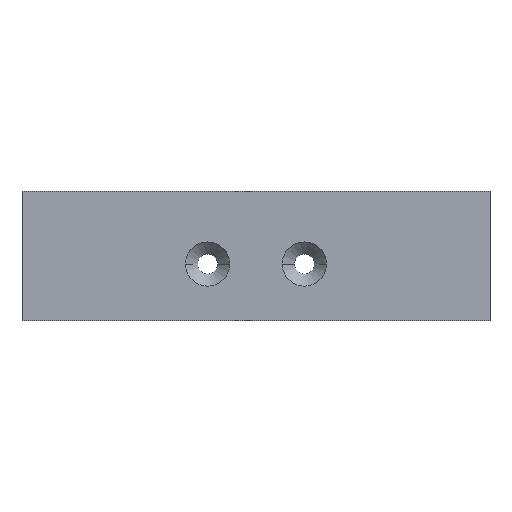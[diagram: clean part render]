
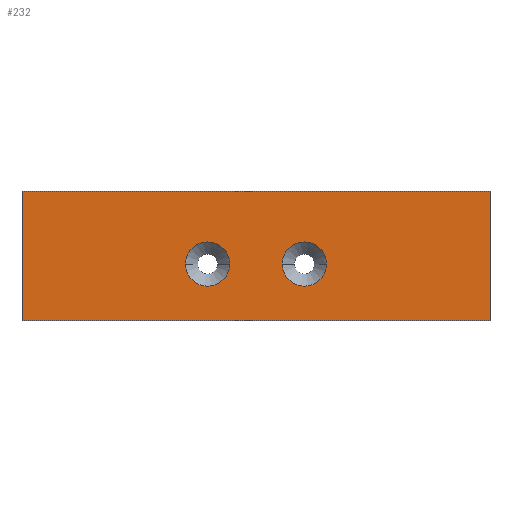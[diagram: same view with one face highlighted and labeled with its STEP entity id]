
A CAD part, top view. The second image highlights one B-rep face of the part: STEP entity #232.
In plain terms, the highlighted planar face has unit normal (0, 0, 1).
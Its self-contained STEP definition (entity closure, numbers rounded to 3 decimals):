
#6 = VERTEX_POINT ( 'NONE', #263 ) ;
#28 = VERTEX_POINT ( 'NONE', #211 ) ;
#36 = EDGE_CURVE ( 'NONE', #6, #38, #206, .T. ) ;
#38 = VERTEX_POINT ( 'NONE', #199 ) ;
#68 = VERTEX_POINT ( 'NONE', #674 ) ;
#69 = EDGE_CURVE ( 'NONE', #28, #68, #687, .T. ) ;
#156 = AXIS2_PLACEMENT_3D ( 'NONE', #203, #193, #192 ) ;
#168 = EDGE_CURVE ( 'NONE', #280, #286, #625, .T. ) ;
#192 = DIRECTION ( 'NONE',  ( 1., 0., 0. ) ) ;
#193 = DIRECTION ( 'NONE',  ( 0., 0., 1. ) ) ;
#199 = CARTESIAN_POINT ( 'NONE',  ( -8.145, 0., 15. ) ) ;
#203 = CARTESIAN_POINT ( 'NONE',  ( -15., 0., 15. ) ) ;
#206 = CIRCLE ( 'NONE', #156, 6.855 ) ;
#211 = CARTESIAN_POINT ( 'NONE',  ( 8.145, 0., 15. ) ) ;
#218 = ORIENTED_EDGE ( 'NONE', *, *, #168, .T. ) ;
#220 = ORIENTED_EDGE ( 'NONE', *, *, #333, .T. ) ;
#224 = EDGE_LOOP ( 'NONE', ( #235, #229 ) ) ;
#227 = EDGE_CURVE ( 'NONE', #280, #307, #563, .T. ) ;
#229 = ORIENTED_EDGE ( 'NONE', *, *, #36, .F. ) ;
#232 = ADVANCED_FACE ( 'NONE', ( #571, #600, #566 ), #559, .F. ) ;
#233 = ORIENTED_EDGE ( 'NONE', *, *, #227, .F. ) ;
#234 = EDGE_CURVE ( 'NONE', #68, #28, #564, .T. ) ;
#235 = ORIENTED_EDGE ( 'NONE', *, *, #237, .F. ) ;
#236 = EDGE_LOOP ( 'NONE', ( #220, #233, #218, #316 ) ) ;
#237 = EDGE_CURVE ( 'NONE', #38, #6, #486, .T. ) ;
#238 = EDGE_LOOP ( 'NONE', ( #240, #239 ) ) ;
#239 = ORIENTED_EDGE ( 'NONE', *, *, #69, .F. ) ;
#240 = ORIENTED_EDGE ( 'NONE', *, *, #234, .F. ) ;
#252 = EDGE_CURVE ( 'NONE', #286, #334, #470, .T. ) ;
#263 = CARTESIAN_POINT ( 'NONE',  ( -21.855, 0., 15. ) ) ;
#280 = VERTEX_POINT ( 'NONE', #370 ) ;
#286 = VERTEX_POINT ( 'NONE', #401 ) ;
#307 = VERTEX_POINT ( 'NONE', #438 ) ;
#316 = ORIENTED_EDGE ( 'NONE', *, *, #252, .T. ) ;
#333 = EDGE_CURVE ( 'NONE', #334, #307, #440, .T. ) ;
#334 = VERTEX_POINT ( 'NONE', #430 ) ;
#370 = CARTESIAN_POINT ( 'NONE',  ( 72.5, -17.5, 15. ) ) ;
#401 = CARTESIAN_POINT ( 'NONE',  ( 72.5, 22.5, 15. ) ) ;
#430 = CARTESIAN_POINT ( 'NONE',  ( -72.5, 22.5, 15. ) ) ;
#438 = CARTESIAN_POINT ( 'NONE',  ( -72.5, -17.5, 15. ) ) ;
#440 = LINE ( 'NONE', #447, #446 ) ;
#445 = DIRECTION ( 'NONE',  ( 0., -1., 0. ) ) ;
#446 = VECTOR ( 'NONE', #445, 1000. ) ;
#447 = CARTESIAN_POINT ( 'NONE',  ( -72.5, -22.5, 15. ) ) ;
#459 = DIRECTION ( 'NONE',  ( -1., 0., 0. ) ) ;
#468 = VECTOR ( 'NONE', #459, 1000. ) ;
#469 = CARTESIAN_POINT ( 'NONE',  ( -72.5, 22.5, 15. ) ) ;
#470 = LINE ( 'NONE', #469, #468 ) ;
#482 = DIRECTION ( 'NONE',  ( 1., 0., 0. ) ) ;
#483 = DIRECTION ( 'NONE',  ( 0., 0., 1. ) ) ;
#484 = CARTESIAN_POINT ( 'NONE',  ( -15., 0., 15. ) ) ;
#485 = AXIS2_PLACEMENT_3D ( 'NONE', #484, #483, #482 ) ;
#486 = CIRCLE ( 'NONE', #485, 6.855 ) ;
#543 = DIRECTION ( 'NONE',  ( 1., 0., 0. ) ) ;
#544 = DIRECTION ( 'NONE',  ( 0., 0., 1. ) ) ;
#545 = CARTESIAN_POINT ( 'NONE',  ( 15., 0., 15. ) ) ;
#550 = DIRECTION ( 'NONE',  ( 1., 0., 0. ) ) ;
#551 = DIRECTION ( 'NONE',  ( 0., 0., 1. ) ) ;
#552 = CARTESIAN_POINT ( 'NONE',  ( 15., 0., 15. ) ) ;
#553 = AXIS2_PLACEMENT_3D ( 'NONE', #552, #551, #550 ) ;
#556 = DIRECTION ( 'NONE',  ( -1., 0., 0. ) ) ;
#559 = PLANE ( 'NONE',  #585 ) ;
#560 = DIRECTION ( 'NONE',  ( -1., 0., 0. ) ) ;
#561 = VECTOR ( 'NONE', #560, 1000. ) ;
#562 = CARTESIAN_POINT ( 'NONE',  ( -72.5, -17.5, 15. ) ) ;
#563 = LINE ( 'NONE', #562, #561 ) ;
#564 = CIRCLE ( 'NONE', #553, 6.855 ) ;
#566 = FACE_OUTER_BOUND ( 'NONE', #236, .T. ) ;
#571 = FACE_BOUND ( 'NONE', #224, .T. ) ;
#573 = DIRECTION ( 'NONE',  ( 0., 0., -1. ) ) ;
#574 = CARTESIAN_POINT ( 'NONE',  ( 72.5, 22.5, 15. ) ) ;
#585 = AXIS2_PLACEMENT_3D ( 'NONE', #574, #573, #556 ) ;
#600 = FACE_BOUND ( 'NONE', #238, .T. ) ;
#622 = DIRECTION ( 'NONE',  ( 0., 1., 0. ) ) ;
#623 = VECTOR ( 'NONE', #622, 1000. ) ;
#624 = CARTESIAN_POINT ( 'NONE',  ( 72.5, -22.5, 15. ) ) ;
#625 = LINE ( 'NONE', #624, #623 ) ;
#674 = CARTESIAN_POINT ( 'NONE',  ( 21.855, 0., 15. ) ) ;
#687 = CIRCLE ( 'NONE', #694, 6.855 ) ;
#694 = AXIS2_PLACEMENT_3D ( 'NONE', #545, #544, #543 ) ;
